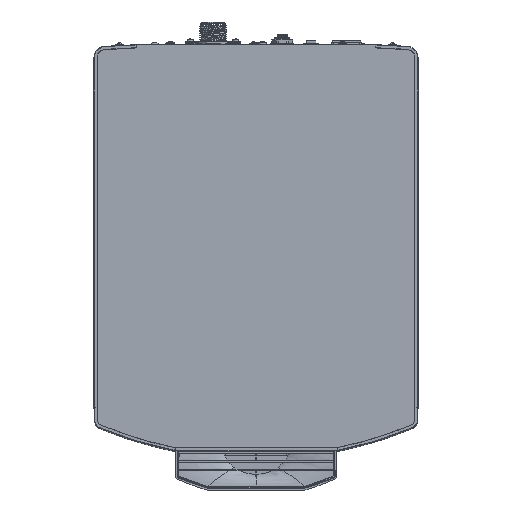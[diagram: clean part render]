
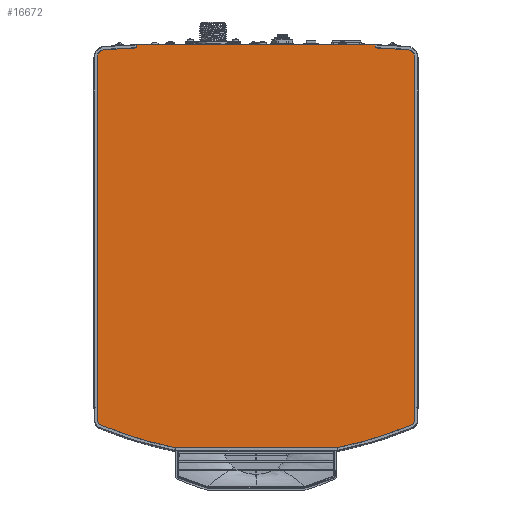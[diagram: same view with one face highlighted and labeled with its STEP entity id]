
A CAD part, top view. The second image highlights one B-rep face of the part: STEP entity #16672.
In plain terms, the highlighted planar face has unit normal (0, 0, 1).
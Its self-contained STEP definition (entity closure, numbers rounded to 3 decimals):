
#84 = VECTOR ( 'NONE', #60975, 1000. ) ;
#870 = EDGE_CURVE ( 'NONE', #10239, #52942, #39708, .T. ) ;
#1362 = DIRECTION ( 'NONE',  ( 0., 1., 0. ) ) ;
#1498 = DIRECTION ( 'NONE',  ( 0., 1., 0. ) ) ;
#2775 = VECTOR ( 'NONE', #104538, 1000. ) ;
#4451 = DIRECTION ( 'NONE',  ( 0., 0., 1. ) ) ;
#6539 = ORIENTED_EDGE ( 'NONE', *, *, #8576, .T. ) ;
#6878 = VERTEX_POINT ( 'NONE', #117469 ) ;
#8486 = ORIENTED_EDGE ( 'NONE', *, *, #132412, .T. ) ;
#8576 = EDGE_CURVE ( 'NONE', #52942, #90629, #39690, .T. ) ;
#8822 = EDGE_CURVE ( 'NONE', #17103, #76863, #117436, .T. ) ;
#9424 = DIRECTION ( 'NONE',  ( 0., 0., 1. ) ) ;
#9530 = DIRECTION ( 'NONE',  ( 0., 0., 1. ) ) ;
#10239 = VERTEX_POINT ( 'NONE', #89963 ) ;
#11953 = LINE ( 'NONE', #81464, #31691 ) ;
#12934 = ORIENTED_EDGE ( 'NONE', *, *, #870, .T. ) ;
#14739 = DIRECTION ( 'NONE',  ( 0., 1., 0. ) ) ;
#15871 = ORIENTED_EDGE ( 'NONE', *, *, #46453, .T. ) ;
#16293 = CARTESIAN_POINT ( 'NONE',  ( -147.289, 185.106, 399.48 ) ) ;
#16672 = ADVANCED_FACE ( 'NONE', ( #49155 ), #38882, .T. ) ;
#16929 = DIRECTION ( 'NONE',  ( 0., -1., 0. ) ) ;
#17103 = VERTEX_POINT ( 'NONE', #25759 ) ;
#18211 = EDGE_LOOP ( 'NONE', ( #119416, #99842, #50112, #12934, #6539, #108210, #43269, #15871, #119400, #108978, #8486, #120008, #39519, #57835 ) ) ;
#18775 = VECTOR ( 'NONE', #26070, 1000. ) ;
#19028 = CARTESIAN_POINT ( 'NONE',  ( 2.711, 179.446, 399.48 ) ) ;
#19488 = EDGE_CURVE ( 'NONE', #6878, #79398, #82463, .T. ) ;
#20128 = CARTESIAN_POINT ( 'NONE',  ( -77.641, -212.74, 399.48 ) ) ;
#20574 = VERTEX_POINT ( 'NONE', #116980 ) ;
#21515 = CIRCLE ( 'NONE', #82334, 8.2 ) ;
#24587 = AXIS2_PLACEMENT_3D ( 'NONE', #19028, #9530, #75427 ) ;
#24945 = DIRECTION ( 'NONE',  ( 0., 1., 0. ) ) ;
#25759 = CARTESIAN_POINT ( 'NONE',  ( 83.063, -212.74, 399.48 ) ) ;
#25851 = CARTESIAN_POINT ( 'NONE',  ( -149.784, -190.705, 399.48 ) ) ;
#26070 = DIRECTION ( 'NONE',  ( 0., 1., 0. ) ) ;
#26601 = LINE ( 'NONE', #136353, #54307 ) ;
#27865 = CARTESIAN_POINT ( 'NONE',  ( 159.511, -184.275, 399.48 ) ) ;
#27889 = CARTESIAN_POINT ( 'NONE',  ( -147.289, -184.299, 399.48 ) ) ;
#29782 = EDGE_CURVE ( 'NONE', #90629, #104895, #35096, .T. ) ;
#31691 = VECTOR ( 'NONE', #56602, 1000. ) ;
#32005 = EDGE_CURVE ( 'NONE', #115575, #99411, #11953, .T. ) ;
#34383 = CARTESIAN_POINT ( 'NONE',  ( -115.089, 182.16, 399.48 ) ) ;
#35096 = LINE ( 'NONE', #34383, #64076 ) ;
#37364 = CARTESIAN_POINT ( 'NONE',  ( 2.711, 179.446, 399.48 ) ) ;
#38882 = PLANE ( 'NONE',  #127982 ) ;
#39519 = ORIENTED_EDGE ( 'NONE', *, *, #97292, .T. ) ;
#39690 = LINE ( 'NONE', #75570, #108180 ) ;
#39708 = LINE ( 'NONE', #16293, #84 ) ;
#40236 = EDGE_CURVE ( 'NONE', #99411, #10239, #117481, .T. ) ;
#40641 = CARTESIAN_POINT ( 'NONE',  ( 151.645, 180.528, 399.48 ) ) ;
#43269 = ORIENTED_EDGE ( 'NONE', *, *, #43536, .T. ) ;
#43536 = EDGE_CURVE ( 'NONE', #104895, #20574, #21515, .T. ) ;
#45387 = DIRECTION ( 'NONE',  ( 0., 0., 1. ) ) ;
#45703 = CIRCLE ( 'NONE', #24587, 400.333 ) ;
#46453 = EDGE_CURVE ( 'NONE', #20574, #6878, #137699, .T. ) ;
#48199 = LINE ( 'NONE', #92861, #2775 ) ;
#49155 = FACE_OUTER_BOUND ( 'NONE', #18211, .T. ) ;
#50112 = ORIENTED_EDGE ( 'NONE', *, *, #40236, .T. ) ;
#52942 = VERTEX_POINT ( 'NONE', #73118 ) ;
#53117 = CARTESIAN_POINT ( 'NONE',  ( 159.511, 172.24, 399.48 ) ) ;
#54307 = VECTOR ( 'NONE', #115150, 1000. ) ;
#56602 = DIRECTION ( 'NONE',  ( -0.999, 0.052, 0. ) ) ;
#57835 = ORIENTED_EDGE ( 'NONE', *, *, #131880, .T. ) ;
#60975 = DIRECTION ( 'NONE',  ( -1., 0., 0. ) ) ;
#61199 = CARTESIAN_POINT ( 'NONE',  ( 120.511, -184.299, 399.48 ) ) ;
#64076 = VECTOR ( 'NONE', #81191, 1000. ) ;
#64339 = CIRCLE ( 'NONE', #97021, 6.953 ) ;
#65057 = CARTESIAN_POINT ( 'NONE',  ( -145.889, 172.335, 399.48 ) ) ;
#65901 = CIRCLE ( 'NONE', #89189, 8.3 ) ;
#73118 = CARTESIAN_POINT ( 'NONE',  ( -115.089, 185.106, 399.48 ) ) ;
#75294 = CARTESIAN_POINT ( 'NONE',  ( 151.211, 172.24, 399.48 ) ) ;
#75427 = DIRECTION ( 'NONE',  ( 0., 1., 0. ) ) ;
#75570 = CARTESIAN_POINT ( 'NONE',  ( -115.089, -184.299, 399.48 ) ) ;
#76863 = VERTEX_POINT ( 'NONE', #79389 ) ;
#79389 = CARTESIAN_POINT ( 'NONE',  ( 155.206, -190.705, 399.48 ) ) ;
#79398 = VERTEX_POINT ( 'NONE', #25851 ) ;
#81191 = DIRECTION ( 'NONE',  ( -0.999, -0.052, 0. ) ) ;
#81464 = CARTESIAN_POINT ( 'NONE',  ( 151.645, 180.528, 399.48 ) ) ;
#82334 = AXIS2_PLACEMENT_3D ( 'NONE', #65057, #9424, #86295 ) ;
#82463 = CIRCLE ( 'NONE', #101153, 6.953 ) ;
#86295 = DIRECTION ( 'NONE',  ( 0., 1., 0. ) ) ;
#87062 = VERTEX_POINT ( 'NONE', #27865 ) ;
#88514 = DIRECTION ( 'NONE',  ( 0., 0., 1. ) ) ;
#89189 = AXIS2_PLACEMENT_3D ( 'NONE', #75294, #109642, #121283 ) ;
#89963 = CARTESIAN_POINT ( 'NONE',  ( 120.511, 185.106, 399.48 ) ) ;
#90629 = VERTEX_POINT ( 'NONE', #130427 ) ;
#91392 = VERTEX_POINT ( 'NONE', #20128 ) ;
#91480 = CARTESIAN_POINT ( 'NONE',  ( -147.136, -184.275, 399.48 ) ) ;
#91674 = CARTESIAN_POINT ( 'NONE',  ( -154.089, -184.299, 399.48 ) ) ;
#92364 = DIRECTION ( 'NONE',  ( 0., 0., 1. ) ) ;
#92861 = CARTESIAN_POINT ( 'NONE',  ( 159.511, -184.299, 399.48 ) ) ;
#97021 = AXIS2_PLACEMENT_3D ( 'NONE', #111126, #88514, #1362 ) ;
#97292 = EDGE_CURVE ( 'NONE', #76863, #87062, #64339, .T. ) ;
#97519 = DIRECTION ( 'NONE',  ( 0., -1., 0. ) ) ;
#99411 = VERTEX_POINT ( 'NONE', #119977 ) ;
#99842 = ORIENTED_EDGE ( 'NONE', *, *, #32005, .T. ) ;
#100678 = EDGE_CURVE ( 'NONE', #79398, #91392, #45703, .T. ) ;
#101153 = AXIS2_PLACEMENT_3D ( 'NONE', #91480, #45387, #1498 ) ;
#102941 = VERTEX_POINT ( 'NONE', #53117 ) ;
#104538 = DIRECTION ( 'NONE',  ( 0., 1., 0. ) ) ;
#104895 = VERTEX_POINT ( 'NONE', #106095 ) ;
#106095 = CARTESIAN_POINT ( 'NONE',  ( -146.318, 180.523, 399.48 ) ) ;
#108180 = VECTOR ( 'NONE', #97519, 1000. ) ;
#108210 = ORIENTED_EDGE ( 'NONE', *, *, #29782, .T. ) ;
#108978 = ORIENTED_EDGE ( 'NONE', *, *, #100678, .T. ) ;
#109642 = DIRECTION ( 'NONE',  ( 0., 0., 1. ) ) ;
#111126 = CARTESIAN_POINT ( 'NONE',  ( 152.558, -184.275, 399.48 ) ) ;
#115150 = DIRECTION ( 'NONE',  ( 1., 0., 0. ) ) ;
#115575 = VERTEX_POINT ( 'NONE', #40641 ) ;
#116980 = CARTESIAN_POINT ( 'NONE',  ( -154.089, 172.335, 399.48 ) ) ;
#117436 = CIRCLE ( 'NONE', #136134, 400.333 ) ;
#117469 = CARTESIAN_POINT ( 'NONE',  ( -154.089, -184.275, 399.48 ) ) ;
#117481 = LINE ( 'NONE', #61199, #18775 ) ;
#119400 = ORIENTED_EDGE ( 'NONE', *, *, #19488, .T. ) ;
#119416 = ORIENTED_EDGE ( 'NONE', *, *, #133987, .T. ) ;
#119977 = CARTESIAN_POINT ( 'NONE',  ( 120.511, 182.16, 399.48 ) ) ;
#120008 = ORIENTED_EDGE ( 'NONE', *, *, #8822, .T. ) ;
#121283 = DIRECTION ( 'NONE',  ( 0., 1., 0. ) ) ;
#127982 = AXIS2_PLACEMENT_3D ( 'NONE', #27889, #92364, #14739 ) ;
#130427 = CARTESIAN_POINT ( 'NONE',  ( -115.089, 182.16, 399.48 ) ) ;
#131880 = EDGE_CURVE ( 'NONE', #87062, #102941, #48199, .T. ) ;
#132412 = EDGE_CURVE ( 'NONE', #91392, #17103, #26601, .T. ) ;
#133987 = EDGE_CURVE ( 'NONE', #102941, #115575, #65901, .T. ) ;
#136134 = AXIS2_PLACEMENT_3D ( 'NONE', #37364, #4451, #24945 ) ;
#136353 = CARTESIAN_POINT ( 'NONE',  ( -147.289, -212.74, 399.48 ) ) ;
#136613 = VECTOR ( 'NONE', #16929, 1000. ) ;
#137699 = LINE ( 'NONE', #91674, #136613 ) ;
